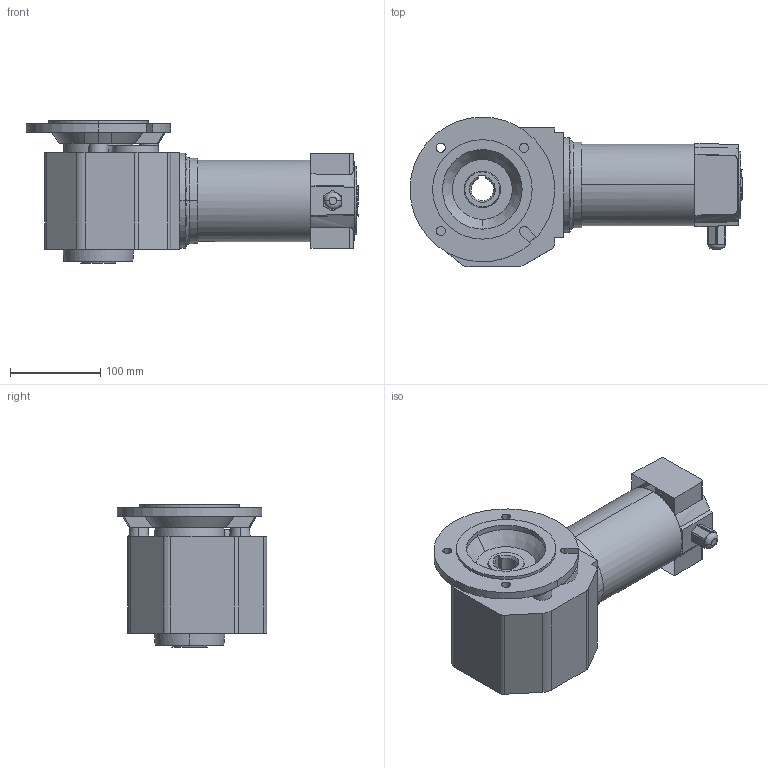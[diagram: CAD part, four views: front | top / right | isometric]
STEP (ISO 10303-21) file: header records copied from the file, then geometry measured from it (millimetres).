
FILE_DESCRIPTION(('OneSpaceDesigner STEP Export'),'2;1');
FILE_NAME('EPG23_ZBF48.stp','2008-07-22T11:09:39',(''),(''),'OneSpace Designer STEP processor (Jan. 2003) for AP214(CD)(Solid Model)','OneSpace Designer 12.01D 09-Jul-2004 (C) CoCreate Software GmbH','');
FILE_SCHEMA(('AUTOMOTIVE_DESIGN_CC2 {1 2 10303 214 -1 1 5 1}'));
Length unit declared in the file: millimetre
Products named in the file (2): EPG23_ZBF48
Assembly tree (1 placements, depth 2):
  EPG23_ZBF48
    EPG23_ZBF48
Bounding box: 367 x 165.5 x 157.5 mm (x, y, z)
Volume: 3841996.3 mm3; surface area: 223597.1 mm2
Topology: 1 solids, 1 shells, 150 faces, 393 edges, 260 vertices
Faces by surface type: plane 62, cylinder 40, bspline 25, cone 19, torus 4
Entity records: 18220 total; most frequent: CARTESIAN_POINT 14909, ORIENTED_EDGE 786, DIRECTION 481, EDGE_CURVE 393, VERTEX_POINT 260, EDGE_LOOP 179, AXIS2_PLACEMENT_3D 161, VECTOR 159
